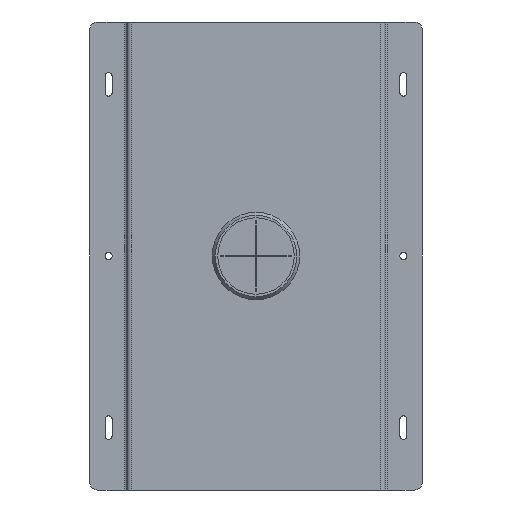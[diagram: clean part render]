
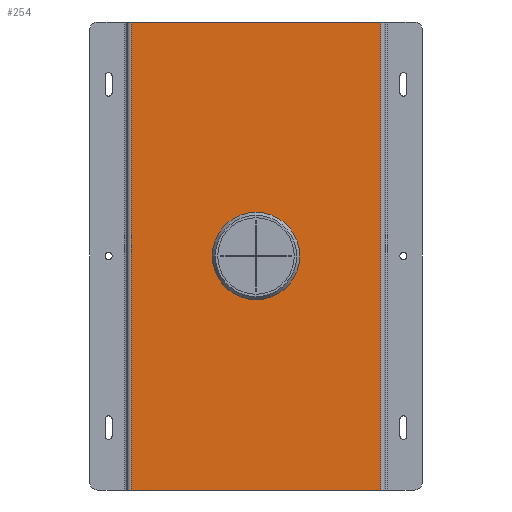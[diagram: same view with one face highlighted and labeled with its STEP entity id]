
A CAD part, front view. The second image highlights one B-rep face of the part: STEP entity #254.
In plain terms, the highlighted planar face has unit normal (0, -1, 0).
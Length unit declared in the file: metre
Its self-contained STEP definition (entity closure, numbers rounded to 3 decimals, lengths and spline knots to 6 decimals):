
#254=ADVANCED_FACE('NONE',(#619,#620),#621,.F.);
#364=EDGE_CURVE('0:259',#822,#823,#824,.T.);
#388=EDGE_CURVE('0:253',#870,#871,#872,.T.);
#394=EDGE_CURVE('NONE',#882,#882,#883,.T.);
#619=FACE_BOUND('',#1164,.T.);
#620=FACE_OUTER_BOUND('',#1165,.T.);
#621=PLANE('',#1166);
#822=VERTEX_POINT('',#1410);
#823=VERTEX_POINT('',#1411);
#824=LINE('',#1412,#1413);
#870=VERTEX_POINT('',#1482);
#871=VERTEX_POINT('',#1483);
#872=LINE('',#1484,#1485);
#882=VERTEX_POINT('',#1500);
#883=CIRCLE('',#1501,0.0255);
#1164=EDGE_LOOP('',(#1949));
#1165=EDGE_LOOP('',(#1950,#1951,#1952,#1953));
#1166=AXIS2_PLACEMENT_3D('',#1954,#1955,#1956);
#1410=CARTESIAN_POINT('',(-0.08,-0.0012,-0.15));
#1411=CARTESIAN_POINT('',(0.08,-0.0012,-0.15));
#1412=CARTESIAN_POINT('',(0.0785,-0.0012,-0.15));
#1413=VECTOR('',#2281,1.0);
#1482=CARTESIAN_POINT('',(-0.08,-0.0012,0.15));
#1483=CARTESIAN_POINT('',(0.08,-0.0012,0.15));
#1484=CARTESIAN_POINT('',(0.0785,-0.0012,0.15));
#1485=VECTOR('',#2293,1.0);
#1500=CARTESIAN_POINT('',(-0.0255,-0.0012,0.0));
#1501=AXIS2_PLACEMENT_3D('',#2296,#2297,#2298);
#1949=ORIENTED_EDGE('',*,*,#394,.T.);
#1950=ORIENTED_EDGE('',*,*,#388,.F.);
#1951=ORIENTED_EDGE('',*,*,#2616,.T.);
#1952=ORIENTED_EDGE('',*,*,#364,.T.);
#1953=ORIENTED_EDGE('',*,*,#2617,.T.);
#1954=CARTESIAN_POINT('',(0.0785,-0.0012,0.15));
#1955=DIRECTION('',(-0.0,1.0,0.0));
#1956=DIRECTION('',(1.0,0.0,0.0));
#2281=DIRECTION('',(1.0,0.0,0.0));
#2293=DIRECTION('',(1.0,0.0,0.0));
#2296=CARTESIAN_POINT('',(0.,-0.0012,0.0));
#2297=DIRECTION('',(0.,1.0,0.0));
#2298=DIRECTION('',(-1.0,0.,0.0));
#2616=EDGE_CURVE('0:265',#870,#822,#2769,.T.);
#2617=EDGE_CURVE('0:256',#823,#871,#2770,.F.);
#2769=LINE('',#2948,#2949);
#2770=LINE('',#2950,#2951);
#2948=CARTESIAN_POINT('',(-0.08,-0.0012,0.15));
#2949=VECTOR('',#3143,1.0);
#2950=CARTESIAN_POINT('',(0.08,-0.0012,0.15));
#2951=VECTOR('',#3144,1.0);
#3143=DIRECTION('',(0.0,0.0,-1.0));
#3144=DIRECTION('',(0.0,0.0,-1.0));
